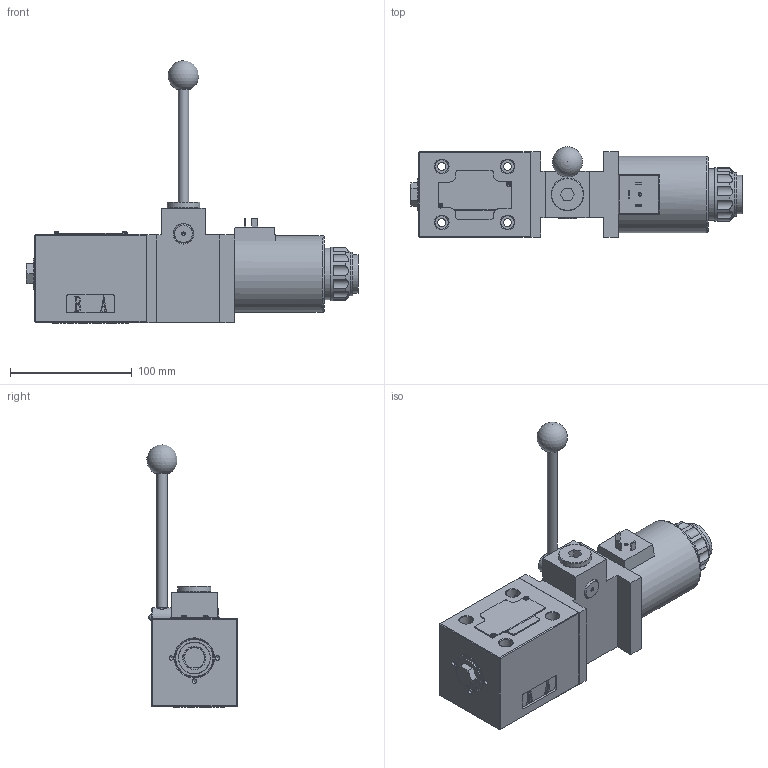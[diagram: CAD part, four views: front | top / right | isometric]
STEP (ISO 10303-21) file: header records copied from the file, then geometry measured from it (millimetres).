
FILE_DESCRIPTION(/* description */ (''),/* implementation_level */ '2;1');
FILE_NAME(/* name */ '4WEMM10-3XJ电磁手动换向阀（二位阀过渡盖在A端）.prt.stp',/* time_stamp */ '2022-03-30T19:41:04+08:00',/* author */ (''),/* organization */ (''),/* preprocessor_version */ 'ST-DEVELOPER v16.7',/* originating_system */ 'SIEMENS PLM Software NX 12.0',/* authorisation */ '');
FILE_SCHEMA (('AUTOMOTIVE_DESIGN { 1 0 10303 214 3 1 1 1 }'));
Products named in the file (1): 4WEMM10-3XJ电磁手动换向阀（二位阀过渡盖在A
端）
Bounding box: 272.4 x 73.9 x 215.5 mm (x, y, z)
Volume: 822909.7 mm3; surface area: 168324.7 mm2
Topology: 24 solids, 34 shells, 897 faces, 2279 edges, 1486 vertices
Faces by surface type: plane 498, cylinder 250, cone 62, bspline 49, torus 35, sphere 2, extrusion 1
Full cylindrical faces by diameter (mm): 1.5 x2, 1.8 x4, 1.9 x2, 2.5 x1, 2.55 x18, 3 x1, 3.6 x9, 4 x3, 4.5 x4, 5 x1, 6 x1, 6.6 x4, 8 x2, 8.5 x1, 10 x1, 11 x4, 12 x1, 15.7 x5, 16 x6, 16.2 x1, 16.5 x2, 17 x2, 18.8 x2, 19 x1, 19.082 x1, 19.1 x2, 21 x2, 21.4 x2, 21.5 x1, 23 x1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
Entity records: 79432 total; most frequent: CARTESIAN_POINT 57618, ORIENTED_EDGE 3966, DIRECTION 3737, EDGE_CURVE 1983, VERTEX_POINT 1393, AXIS2_PLACEMENT_3D 1292, VECTOR 1153, LINE 1152
